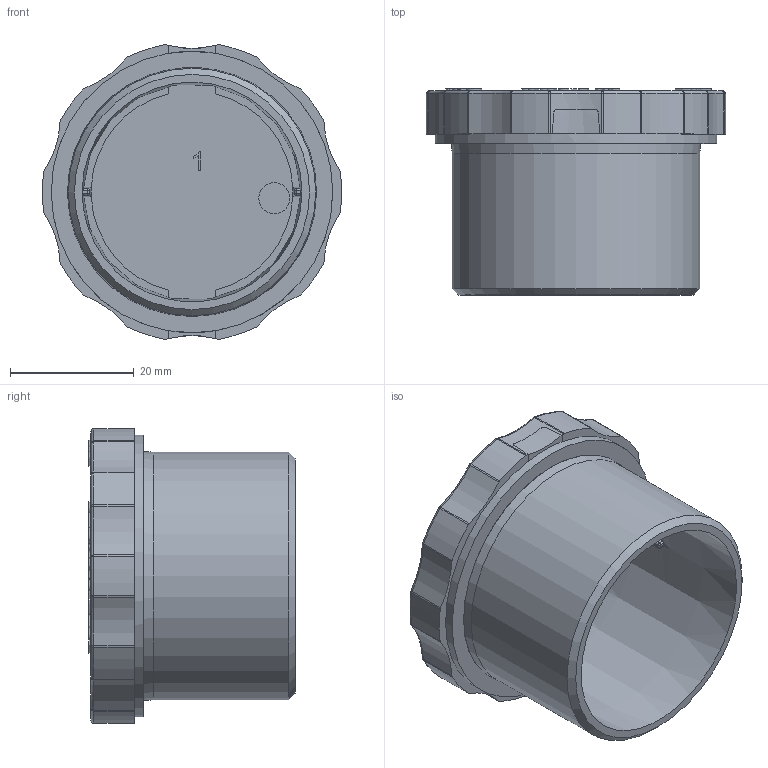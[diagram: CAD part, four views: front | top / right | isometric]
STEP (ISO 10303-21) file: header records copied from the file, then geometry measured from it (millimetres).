
FILE_DESCRIPTION(/* description */ (''),/* implementation_level */ '2;1');
FILE_NAME(/* name */ 'C:\SapWorkDir\Inventor\MP1\ConvertTempPath\87_16_121427_00_A_220713_KDP-ZR 40-7.stp',/* time_stamp */ '2022-07-13T12:05:10+02:00',/* author */ ('BAUER'),/* organization */ (''),/* preprocessor_version */ 'ST-DEVELOPER v16.13',/* originating_system */ 'Autodesk Inventor 2018',/* authorisation */ '');
FILE_SCHEMA (('AUTOMOTIVE_DESIGN { 1 0 10303 214 3 1 1 }'));
Length unit declared in the file: millimetre
Products named in the file (1): 121427
Bounding box: 48.35 x 33.3 x 47.61 mm (x, y, z)
Volume: 17251.9 mm3; surface area: 14593.9 mm2
Topology: 2 solids, 2 shells, 658 faces, 1737 edges, 1120 vertices
Faces by surface type: plane 283, bspline 200, cylinder 83, cone 37, torus 31, sphere 24
Full cylindrical faces by diameter (mm): 5 x1, 40 x1, 40.25 x2, 45.5 x1
Entity records: 22254 total; most frequent: CARTESIAN_POINT 7063, ORIENTED_EDGE 3400, DIRECTION 2638, EDGE_CURVE 1700, VERTEX_POINT 1116, LINE 894, VECTOR 894, AXIS2_PLACEMENT_3D 872
